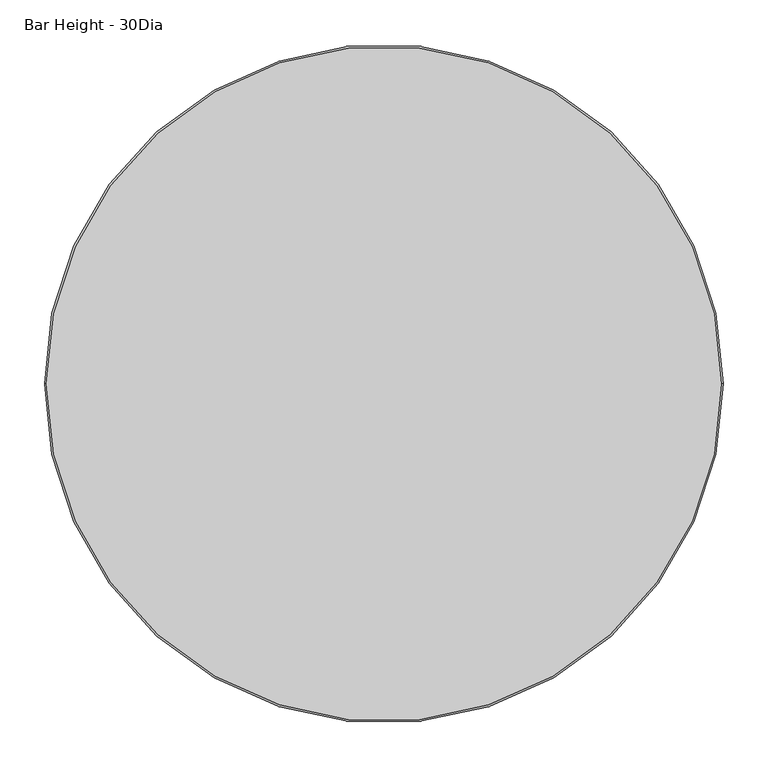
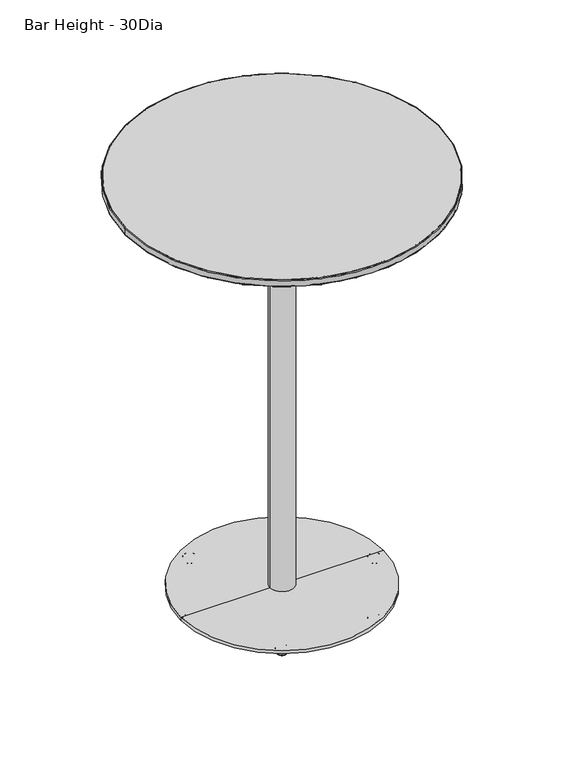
"""IFC4 building model written with IfcOpenShell, lengths in millimetres: furniture geometry, Coalesse_AM_Table_Occasional_Montara650Table_CafeHeight_Round : Bar Height - 30Dia."""

from ifc_helpers import new_model, si_unit, point, frame, origin, origin_with_axes, origin_2d, place, context, project, spatial, polyline, circle_curve, ellipse_curve, trimmed, segment, composite_curve, outline, extrude, source, transform, mapped, element, save
from ifc_brep_helpers import plane_surface, cylinder_surface, revolved_surface, advanced_brep


def bar_height_30dia_bfdacb72(model_context):
    return source(origin(), model_context, "Body", "SolidModel", [
        advanced_brep(
        [(-112.4946772, 194.8464965, 0.0), (-117.6867095, 203.8393602, 0.0), (-107.302645, 185.8536329, 0.0), (-118.0731448, 204.5086859, 0.5718943), (-106.9162096, 185.1843072, 0.5718943), (-119.6988534, 207.3244957, 11.2068005), (-105.290501, 182.3684973, 11.2068005), (-119.4053894, 206.8162011, 11.9999882), (-105.5839651, 182.8767919, 11.9999882), (-112.4946772, 194.8464965, 11.9999882)],
        [
            (0, 1),
            (1, 2, circle_curve(frame((-112.4946772, 194.8464965, 0.0), z_axis=(0.0, 0.0, -1.0), x_axis=(-0.5000000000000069, 0.8660254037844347, 0.0)), 10.3840645)),
            (2, 0),
            (2, 1, circle_curve(frame((-112.4946772, 194.8464965, 0.0), z_axis=(0.0, 0.0, -1.0), x_axis=(-0.5000000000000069, 0.8660254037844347, 0.0)), 10.3840645)),
            (1, 3, circle_curve(frame((-117.6867095, 203.8393602, 0.8081846), z_axis=(0.8660254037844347, 0.5000000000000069, 0.0), x_axis=(-0.5000000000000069, 0.8660254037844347, 0.0)), 0.8081846)),
            (3, 4, circle_curve(frame((-112.4946772, 194.8464965, 0.5718943), z_axis=(0.0, 0.0, -1.0), x_axis=(-0.5000000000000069, 0.8660254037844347, 0.0)), 11.1569353)),
            (4, 2, circle_curve(frame((-107.302645, 185.8536329, 0.8081846), z_axis=(0.866025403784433, 0.5000000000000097, 0.0), x_axis=(0.5000000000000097, -0.866025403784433, 0.0)), 0.8081846)),
            (4, 3, circle_curve(frame((-112.4946772, 194.8464965, 0.5718943), z_axis=(0.0, 0.0, -1.0), x_axis=(-0.5000000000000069, 0.8660254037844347, 0.0)), 11.1569353)),
            (3, 5),
            (5, 6, circle_curve(frame((-112.4946772, 194.8464965, 11.2068005), z_axis=(0.0, 0.0, -1.0), x_axis=(-0.5000000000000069, 0.8660254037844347, 0.0)), 14.4083524)),
            (6, 4),
            (6, 5, circle_curve(frame((-112.4946772, 194.8464965, 11.2068005), z_axis=(0.0, 0.0, -1.0), x_axis=(-0.5000000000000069, 0.8660254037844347, 0.0)), 14.4083524)),
            (5, 7, circle_curve(frame((-119.4053894, 206.8162011, 11.3862424), z_axis=(0.8660254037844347, 0.5000000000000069, 0.0), x_axis=(-0.5000000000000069, 0.8660254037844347, 0.0)), 0.6137458)),
            (7, 8, circle_curve(frame((-112.4946772, 194.8464965, 11.9999882), z_axis=(0.0, 0.0, -1.0), x_axis=(-0.5000000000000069, 0.8660254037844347, 0.0)), 13.8214243)),
            (8, 6, circle_curve(frame((-105.5839651, 182.8767919, 11.3862424), z_axis=(0.866025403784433, 0.5000000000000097, 0.0), x_axis=(0.5000000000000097, -0.866025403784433, 0.0)), 0.6137458)),
            (8, 7, circle_curve(frame((-112.4946772, 194.8464965, 11.9999882), z_axis=(0.0, 0.0, -1.0), x_axis=(-0.5000000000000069, 0.8660254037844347, 0.0)), 13.8214243)),
            (7, 9),
            (9, 8),
        ],
        [
            plane_surface(frame((-112.4946772, 194.8464965, 0.0), z_axis=(0.0, 0.0, -1.0), x_axis=(-0.5000000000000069, 0.8660254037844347, 0.0))),
            revolved_surface(trimmed(ellipse_curve(frame((-117.6867095, 203.8393602, 0.8081846), z_axis=(-0.8660254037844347, -0.5000000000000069, 0.0), x_axis=(-0.5000000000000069, 0.8660254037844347, 0.0)), 0.8081846, 0.8081846), [point((-118.0731448, 204.5086859, 0.5718943))], [point((-117.6867095, 203.8393602, 0.0))], True, "CARTESIAN"), (-112.4946772, 194.8464965, 12.2086845), (0.0, 0.0, -1.0)),
            revolved_surface(polyline([(-119.6988534, 207.3244957, 11.2068005), (-118.0731448, 204.5086859, 0.5718943)]), (-112.4946772, 194.8464965, 12.2086845), (0.0, 0.0, -1.0)),
            revolved_surface(trimmed(ellipse_curve(frame((-119.4053894, 206.8162011, 11.3862424), z_axis=(-0.8660254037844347, -0.5000000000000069, 0.0), x_axis=(-0.5000000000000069, 0.8660254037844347, 0.0)), 0.6137458, 0.6137458), [point((-119.4053894, 206.8162011, 11.9999882))], [point((-119.6988534, 207.3244957, 11.2068005))], True, "CARTESIAN"), (-112.4946772, 194.8464965, 12.2086845), (0.0, 0.0, -1.0)),
            plane_surface(frame((-112.4946772, 194.8464965, 11.9999882), z_axis=(0.0, 0.0, 1.0), x_axis=(-0.5000000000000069, 0.8660254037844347, 0.0))),
        ],
        [
            (0, [[1, 2, 3]]),
            (0, [[-3, 4, -1]]),
            (1, [[-2, 5, 6, 7]]),
            (1, [[-4, -7, 8, -5]]),
            (2, [[-6, 9, 10, 11]]),
            (2, [[-8, -11, 12, -9]]),
            (3, [[-10, 13, 14, 15]]),
            (3, [[-12, -15, 16, -13]]),
            (4, [[-14, 17, 18]]),
            (4, [[-16, -18, -17]]),
        ],
    ),
        advanced_brep(
        [(107.302645, -185.8536329, 0.0), (117.6867095, -203.8393602, 0.0), (112.4946772, -194.8464965, 0.0), (106.9162096, -185.1843072, 0.5718943), (118.0731448, -204.5086859, 0.5718943), (105.290501, -182.3684973, 11.2068005), (119.6988534, -207.3244957, 11.2068005), (105.5839651, -182.8767919, 11.9999882), (119.4053894, -206.8162011, 11.9999882), (112.4946772, -194.8464965, 11.9999882)],
        [
            (0, 1, circle_curve(frame((112.4946772, -194.8464965, 0.0), z_axis=(0.0, 0.0, -1.0), x_axis=(0.5000000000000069, -0.8660254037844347, 0.0)), 10.3840645)),
            (1, 2),
            (2, 0),
            (1, 0, circle_curve(frame((112.4946772, -194.8464965, 0.0), z_axis=(0.0, 0.0, -1.0), x_axis=(0.5000000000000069, -0.8660254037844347, 0.0)), 10.3840645)),
            (3, 4, circle_curve(frame((112.4946772, -194.8464965, 0.5718943), z_axis=(0.0, 0.0, -1.0), x_axis=(0.5000000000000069, -0.8660254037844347, 0.0)), 11.1569353)),
            (4, 1, circle_curve(frame((117.6867095, -203.8393602, 0.8081846), z_axis=(0.8660254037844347, 0.5000000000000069, 0.0), x_axis=(0.5000000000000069, -0.8660254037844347, 0.0)), 0.8081846)),
            (0, 3, circle_curve(frame((107.302645, -185.8536329, 0.8081846), z_axis=(0.8660254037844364, 0.5000000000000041, 0.0), x_axis=(-0.5000000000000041, 0.8660254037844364, 0.0)), 0.8081846)),
            (4, 3, circle_curve(frame((112.4946772, -194.8464965, 0.5718943), z_axis=(0.0, 0.0, -1.0), x_axis=(0.5000000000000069, -0.8660254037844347, 0.0)), 11.1569353)),
            (5, 6, circle_curve(frame((112.4946772, -194.8464965, 11.2068005), z_axis=(0.0, 0.0, -1.0), x_axis=(0.5000000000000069, -0.8660254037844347, 0.0)), 14.4083524)),
            (6, 4),
            (3, 5),
            (6, 5, circle_curve(frame((112.4946772, -194.8464965, 11.2068005), z_axis=(0.0, 0.0, -1.0), x_axis=(0.5000000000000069, -0.8660254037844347, 0.0)), 14.4083524)),
            (7, 8, circle_curve(frame((112.4946772, -194.8464965, 11.9999882), z_axis=(0.0, 0.0, -1.0), x_axis=(0.5000000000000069, -0.8660254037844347, 0.0)), 13.8214243)),
            (8, 6, circle_curve(frame((119.4053894, -206.8162011, 11.3862424), z_axis=(0.8660254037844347, 0.5000000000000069, 0.0), x_axis=(0.5000000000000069, -0.8660254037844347, 0.0)), 0.6137458)),
            (5, 7, circle_curve(frame((105.5839651, -182.8767919, 11.3862424), z_axis=(0.8660254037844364, 0.5000000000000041, 0.0), x_axis=(-0.5000000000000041, 0.8660254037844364, 0.0)), 0.6137458)),
            (8, 7, circle_curve(frame((112.4946772, -194.8464965, 11.9999882), z_axis=(0.0, 0.0, -1.0), x_axis=(0.5000000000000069, -0.8660254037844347, 0.0)), 13.8214243)),
            (9, 8),
            (7, 9),
        ],
        [
            plane_surface(frame((112.4946772, -194.8464965, 0.0), z_axis=(0.0, 0.0, -1.0), x_axis=(0.5000000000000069, -0.8660254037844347, 0.0))),
            revolved_surface(trimmed(ellipse_curve(frame((117.6867095, -203.8393602, 0.8081846), z_axis=(-0.8660254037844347, -0.5000000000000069, 0.0), x_axis=(0.5000000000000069, -0.8660254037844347, 0.0)), 0.8081846, 0.8081846), [point((117.6867095, -203.8393602, 0.0))], [point((118.0731448, -204.5086859, 0.5718943))], True, "CARTESIAN"), (112.4946772, -194.8464965, 12.2086845), (0.0, 0.0, 1.0)),
            revolved_surface(polyline([(118.0731448, -204.5086859, 0.5718943), (119.6988534, -207.3244957, 11.2068005)]), (112.4946772, -194.8464965, 12.2086845), (0.0, 0.0, 1.0)),
            revolved_surface(trimmed(ellipse_curve(frame((119.4053894, -206.8162011, 11.3862424), z_axis=(-0.8660254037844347, -0.5000000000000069, 0.0), x_axis=(0.5000000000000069, -0.8660254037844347, 0.0)), 0.6137458, 0.6137458), [point((119.6988534, -207.3244957, 11.2068005))], [point((119.4053894, -206.8162011, 11.9999882))], True, "CARTESIAN"), (112.4946772, -194.8464965, 12.2086845), (0.0, 0.0, 1.0)),
            plane_surface(frame((112.4946772, -194.8464965, 11.9999882), z_axis=(0.0, 0.0, 1.0), x_axis=(0.5000000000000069, -0.8660254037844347, 0.0))),
        ],
        [
            (0, [[1, 2, 3]]),
            (0, [[4, -3, -2]]),
            (1, [[5, 6, -1, 7]]),
            (1, [[8, -7, -4, -6]]),
            (2, [[9, 10, -5, 11]]),
            (2, [[12, -11, -8, -10]]),
            (3, [[13, 14, -9, 15]]),
            (3, [[16, -15, -12, -14]]),
            (4, [[17, -13, 18]]),
            (4, [[-18, -16, -17]]),
        ],
    ),
        advanced_brep(
        [(104.863739, 174.0655874, 0.0), (115.2478035, 192.0513148, 0.0), (110.0557713, 183.0584511, 0.0), (104.4773036, 173.3962617, 0.5718943), (115.6342389, 192.7206405, 0.5718943), (102.8515951, 170.5804519, 11.2068005), (117.2599475, 195.5364503, 11.2068005), (103.1450591, 171.0887465, 11.9999882), (116.9664834, 195.0281557, 11.9999882), (110.0557713, 183.0584511, 11.9999882)],
        [
            (0, 1, circle_curve(frame((110.0557713, 183.0584511, 0.0), z_axis=(0.0, 0.0, -1.0), x_axis=(0.5000000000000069, 0.8660254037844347, 0.0)), 10.3840645)),
            (1, 2),
            (2, 0),
            (1, 0, circle_curve(frame((110.0557713, 183.0584511, 0.0), z_axis=(0.0, 0.0, -1.0), x_axis=(0.5000000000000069, 0.8660254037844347, 0.0)), 10.3840645)),
            (3, 4, circle_curve(frame((110.0557713, 183.0584511, 0.5718943), z_axis=(0.0, 0.0, -1.0), x_axis=(0.5000000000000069, 0.8660254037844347, 0.0)), 11.1569353)),
            (4, 1, circle_curve(frame((115.2478035, 192.0513148, 0.8081846), z_axis=(-0.8660254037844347, 0.5000000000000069, 0.0), x_axis=(0.5000000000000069, 0.8660254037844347, 0.0)), 0.8081846)),
            (0, 3, circle_curve(frame((104.863739, 174.0655874, 0.8081846), z_axis=(-0.866025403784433, 0.5000000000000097, 0.0), x_axis=(-0.5000000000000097, -0.866025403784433, 0.0)), 0.8081846)),
            (4, 3, circle_curve(frame((110.0557713, 183.0584511, 0.5718943), z_axis=(0.0, 0.0, -1.0), x_axis=(0.5000000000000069, 0.8660254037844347, 0.0)), 11.1569353)),
            (5, 6, circle_curve(frame((110.0557713, 183.0584511, 11.2068005), z_axis=(0.0, 0.0, -1.0), x_axis=(0.5000000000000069, 0.8660254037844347, 0.0)), 14.4083524)),
            (6, 4),
            (3, 5),
            (6, 5, circle_curve(frame((110.0557713, 183.0584511, 11.2068005), z_axis=(0.0, 0.0, -1.0), x_axis=(0.5000000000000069, 0.8660254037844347, 0.0)), 14.4083524)),
            (7, 8, circle_curve(frame((110.0557713, 183.0584511, 11.9999882), z_axis=(0.0, 0.0, -1.0), x_axis=(0.5000000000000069, 0.8660254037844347, 0.0)), 13.8214243)),
            (8, 6, circle_curve(frame((116.9664834, 195.0281557, 11.3862424), z_axis=(-0.8660254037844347, 0.5000000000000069, 0.0), x_axis=(0.5000000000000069, 0.8660254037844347, 0.0)), 0.6137458)),
            (5, 7, circle_curve(frame((103.1450591, 171.0887465, 11.3862424), z_axis=(-0.866025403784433, 0.5000000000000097, 0.0), x_axis=(-0.5000000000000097, -0.866025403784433, 0.0)), 0.6137458)),
            (8, 7, circle_curve(frame((110.0557713, 183.0584511, 11.9999882), z_axis=(0.0, 0.0, -1.0), x_axis=(0.5000000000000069, 0.8660254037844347, 0.0)), 13.8214243)),
            (9, 8),
            (7, 9),
        ],
        [
            plane_surface(frame((110.0557713, 183.0584511, 0.0), z_axis=(0.0, 0.0, -1.0), x_axis=(0.5000000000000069, 0.8660254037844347, 0.0))),
            revolved_surface(trimmed(ellipse_curve(frame((115.2478035, 192.0513148, 0.8081846), z_axis=(0.8660254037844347, -0.5000000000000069, 0.0), x_axis=(0.5000000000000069, 0.8660254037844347, 0.0)), 0.8081846, 0.8081846), [point((115.2478035, 192.0513148, 0.0))], [point((115.6342389, 192.7206405, 0.5718943))], True, "CARTESIAN"), (110.0557713, 183.0584511, 12.2086845), (0.0, 0.0, 1.0)),
            revolved_surface(polyline([(115.6342389, 192.7206405, 0.5718943), (117.2599475, 195.5364503, 11.2068005)]), (110.0557713, 183.0584511, 12.2086845), (0.0, 0.0, 1.0)),
            revolved_surface(trimmed(ellipse_curve(frame((116.9664834, 195.0281557, 11.3862424), z_axis=(0.8660254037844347, -0.5000000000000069, 0.0), x_axis=(0.5000000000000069, 0.8660254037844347, 0.0)), 0.6137458, 0.6137458), [point((117.2599475, 195.5364503, 11.2068005))], [point((116.9664834, 195.0281557, 11.9999882))], True, "CARTESIAN"), (110.0557713, 183.0584511, 12.2086845), (0.0, 0.0, 1.0)),
            plane_surface(frame((110.0557713, 183.0584511, 11.9999882), z_axis=(0.0, 0.0, 1.0), x_axis=(0.5000000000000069, 0.8660254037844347, 0.0))),
        ],
        [
            (0, [[1, 2, 3]]),
            (0, [[4, -3, -2]]),
            (1, [[5, 6, -1, 7]]),
            (1, [[8, -7, -4, -6]]),
            (2, [[9, 10, -5, 11]]),
            (2, [[12, -11, -8, -10]]),
            (3, [[13, 14, -9, 15]]),
            (3, [[16, -15, -12, -14]]),
            (4, [[17, -13, 18]]),
            (4, [[-18, -16, -17]]),
        ],
    ),
        advanced_brep(
        [(-112.4946772, -194.8464965, 0.0), (-117.6867095, -203.8393602, 0.0), (-107.302645, -185.8536329, 0.0), (-118.0731448, -204.5086859, 0.5718943), (-106.9162096, -185.1843072, 0.5718943), (-119.6988534, -207.3244957, 11.2068005), (-105.290501, -182.3684973, 11.2068005), (-119.4053894, -206.8162011, 11.9999882), (-105.5839651, -182.8767919, 11.9999882), (-112.4946772, -194.8464965, 11.9999882)],
        [
            (0, 1),
            (1, 2, circle_curve(frame((-112.4946772, -194.8464965, 0.0), z_axis=(0.0, 0.0, -1.0), x_axis=(-0.5000000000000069, -0.8660254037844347, 0.0)), 10.3840645)),
            (2, 0),
            (2, 1, circle_curve(frame((-112.4946772, -194.8464965, 0.0), z_axis=(0.0, 0.0, -1.0), x_axis=(-0.5000000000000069, -0.8660254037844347, 0.0)), 10.3840645)),
            (1, 3, circle_curve(frame((-117.6867095, -203.8393602, 0.8081846), z_axis=(-0.8660254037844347, 0.5000000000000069, 0.0), x_axis=(-0.5000000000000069, -0.8660254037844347, 0.0)), 0.8081846)),
            (3, 4, circle_curve(frame((-112.4946772, -194.8464965, 0.5718943), z_axis=(0.0, 0.0, -1.0), x_axis=(-0.5000000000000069, -0.8660254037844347, 0.0)), 11.1569353)),
            (4, 2, circle_curve(frame((-107.302645, -185.8536329, 0.8081846), z_axis=(-0.8660254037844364, 0.5000000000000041, 0.0), x_axis=(0.5000000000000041, 0.8660254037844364, 0.0)), 0.8081846)),
            (4, 3, circle_curve(frame((-112.4946772, -194.8464965, 0.5718943), z_axis=(0.0, 0.0, -1.0), x_axis=(-0.5000000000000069, -0.8660254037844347, 0.0)), 11.1569353)),
            (3, 5),
            (5, 6, circle_curve(frame((-112.4946772, -194.8464965, 11.2068005), z_axis=(0.0, 0.0, -1.0), x_axis=(-0.5000000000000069, -0.8660254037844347, 0.0)), 14.4083524)),
            (6, 4),
            (6, 5, circle_curve(frame((-112.4946772, -194.8464965, 11.2068005), z_axis=(0.0, 0.0, -1.0), x_axis=(-0.5000000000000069, -0.8660254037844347, 0.0)), 14.4083524)),
            (5, 7, circle_curve(frame((-119.4053894, -206.8162011, 11.3862424), z_axis=(-0.8660254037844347, 0.5000000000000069, 0.0), x_axis=(-0.5000000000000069, -0.8660254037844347, 0.0)), 0.6137458)),
            (7, 8, circle_curve(frame((-112.4946772, -194.8464965, 11.9999882), z_axis=(0.0, 0.0, -1.0), x_axis=(-0.5000000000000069, -0.8660254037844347, 0.0)), 13.8214243)),
            (8, 6, circle_curve(frame((-105.5839651, -182.8767919, 11.3862424), z_axis=(-0.8660254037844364, 0.5000000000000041, 0.0), x_axis=(0.5000000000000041, 0.8660254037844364, 0.0)), 0.6137458)),
            (8, 7, circle_curve(frame((-112.4946772, -194.8464965, 11.9999882), z_axis=(0.0, 0.0, -1.0), x_axis=(-0.5000000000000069, -0.8660254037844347, 0.0)), 13.8214243)),
            (7, 9),
            (9, 8),
        ],
        [
            plane_surface(frame((-112.4946772, -194.8464965, 0.0), z_axis=(0.0, 0.0, -1.0), x_axis=(-0.5000000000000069, -0.8660254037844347, 0.0))),
            revolved_surface(trimmed(ellipse_curve(frame((-117.6867095, -203.8393602, 0.8081846), z_axis=(0.8660254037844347, -0.5000000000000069, 0.0), x_axis=(-0.5000000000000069, -0.8660254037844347, 0.0)), 0.8081846, 0.8081846), [point((-118.0731448, -204.5086859, 0.5718943))], [point((-117.6867095, -203.8393602, 0.0))], True, "CARTESIAN"), (-112.4946772, -194.8464965, 12.2086845), (0.0, 0.0, -1.0)),
            revolved_surface(polyline([(-119.6988534, -207.3244957, 11.2068005), (-118.0731448, -204.5086859, 0.5718943)]), (-112.4946772, -194.8464965, 12.2086845), (0.0, 0.0, -1.0)),
            revolved_surface(trimmed(ellipse_curve(frame((-119.4053894, -206.8162011, 11.3862424), z_axis=(0.8660254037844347, -0.5000000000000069, 0.0), x_axis=(-0.5000000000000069, -0.8660254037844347, 0.0)), 0.6137458, 0.6137458), [point((-119.4053894, -206.8162011, 11.9999882))], [point((-119.6988534, -207.3244957, 11.2068005))], True, "CARTESIAN"), (-112.4946772, -194.8464965, 12.2086845), (0.0, 0.0, -1.0)),
            plane_surface(frame((-112.4946772, -194.8464965, 11.9999882), z_axis=(0.0, 0.0, 1.0), x_axis=(-0.5000000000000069, -0.8660254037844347, 0.0))),
        ],
        [
            (0, [[1, 2, 3]]),
            (0, [[-3, 4, -1]]),
            (1, [[-2, 5, 6, 7]]),
            (1, [[-4, -7, 8, -5]]),
            (2, [[-6, 9, 10, 11]]),
            (2, [[-8, -11, 12, -9]]),
            (3, [[-10, 13, 14, 15]]),
            (3, [[-12, -15, 16, -13]]),
            (4, [[-14, 17, 18]]),
            (4, [[-16, -18, -17]]),
        ],
    ),
        advanced_brep(
        [(214.6052899, 0.0, 0.0), (235.3734189, 0.0, 0.0), (224.9893544, 0.0, 0.0), (213.8324192, 0.0, 0.5718943), (236.1462897, 0.0, 0.5718943), (210.5810021, 0.0, 11.2068005), (239.3977068, 0.0, 11.2068005), (211.1679301, 0.0, 11.9999882), (238.8107788, 0.0, 11.9999882), (224.9893544, 0.0, 11.9999882)],
        [
            (0, 1, circle_curve(frame((224.9893544, 0.0, 0.0), z_axis=(0.0, 0.0, -1.0), x_axis=(1.0, 0.0, 0.0)), 10.3840645)),
            (1, 2),
            (2, 0),
            (1, 0, circle_curve(frame((224.9893544, 0.0, 0.0), z_axis=(0.0, 0.0, -1.0), x_axis=(1.0, 0.0, 0.0)), 10.3840645)),
            (3, 4, circle_curve(frame((224.9893544, 0.0, 0.5718943), z_axis=(0.0, 0.0, -1.0), x_axis=(1.0, 0.0, 0.0)), 11.1569353)),
            (4, 1, circle_curve(frame((235.3734189, 0.0, 0.8081846), z_axis=(0.0, 1.0, 0.0), x_axis=(1.0, 0.0, 0.0)), 0.8081846)),
            (0, 3, circle_curve(frame((214.6052899, 0.0, 0.8081846), z_axis=(0.0, 1.0, 0.0), x_axis=(-1.0, 0.0, 0.0)), 0.8081846)),
            (4, 3, circle_curve(frame((224.9893544, 0.0, 0.5718943), z_axis=(0.0, 0.0, -1.0), x_axis=(1.0, 0.0, 0.0)), 11.1569353)),
            (5, 6, circle_curve(frame((224.9893544, 0.0, 11.2068005), z_axis=(0.0, 0.0, -1.0), x_axis=(1.0, 0.0, 0.0)), 14.4083524)),
            (6, 4),
            (3, 5),
            (6, 5, circle_curve(frame((224.9893544, 0.0, 11.2068005), z_axis=(0.0, 0.0, -1.0), x_axis=(1.0, 0.0, 0.0)), 14.4083524)),
            (7, 8, circle_curve(frame((224.9893544, 0.0, 11.9999882), z_axis=(0.0, 0.0, -1.0), x_axis=(1.0, 0.0, 0.0)), 13.8214243)),
            (8, 6, circle_curve(frame((238.8107788, 0.0, 11.3862424), z_axis=(0.0, 1.0, 0.0), x_axis=(1.0, 0.0, 0.0)), 0.6137458)),
            (5, 7, circle_curve(frame((211.1679301, 0.0, 11.3862424), z_axis=(0.0, 1.0, 0.0), x_axis=(-1.0, 0.0, 0.0)), 0.6137458)),
            (8, 7, circle_curve(frame((224.9893544, 0.0, 11.9999882), z_axis=(0.0, 0.0, -1.0), x_axis=(1.0, 0.0, 0.0)), 13.8214243)),
            (9, 8),
            (7, 9),
        ],
        [
            plane_surface(frame((224.9893544, 0.0, 0.0), z_axis=(0.0, 0.0, -1.0), x_axis=(1.0, 0.0, 0.0))),
            revolved_surface(trimmed(ellipse_curve(frame((235.3734189, 0.0, 0.8081846), z_axis=(0.0, -1.0, 0.0), x_axis=(1.0, 0.0, 0.0)), 0.8081846, 0.8081846), [point((235.3734189, 0.0, 0.0))], [point((236.1462897, 0.0, 0.5718943))], True, "CARTESIAN"), (224.9893544, 0.0, 12.2086845), (0.0, 0.0, 1.0)),
            revolved_surface(polyline([(236.1462897, 0.0, 0.5718943), (239.3977068, 0.0, 11.2068005)]), (224.9893544, 0.0, 12.2086845), (0.0, 0.0, 1.0)),
            revolved_surface(trimmed(ellipse_curve(frame((238.8107788, 0.0, 11.3862424), z_axis=(0.0, -1.0, 0.0), x_axis=(1.0, 0.0, 0.0)), 0.6137458, 0.6137458), [point((239.3977068, 0.0, 11.2068005))], [point((238.8107788, 0.0, 11.9999882))], True, "CARTESIAN"), (224.9893544, 0.0, 12.2086845), (0.0, 0.0, 1.0)),
            plane_surface(frame((224.9893544, 0.0, 11.9999882), z_axis=(0.0, 0.0, 1.0), x_axis=(1.0, 0.0, 0.0))),
        ],
        [
            (0, [[1, 2, 3]]),
            (0, [[4, -3, -2]]),
            (1, [[5, 6, -1, 7]]),
            (1, [[8, -7, -4, -6]]),
            (2, [[9, 10, -5, 11]]),
            (2, [[12, -11, -8, -10]]),
            (3, [[13, 14, -9, 15]]),
            (3, [[16, -15, -12, -14]]),
            (4, [[17, -13, 18]]),
            (4, [[-18, -16, -17]]),
        ],
    ),
        advanced_brep(
        [(-334.264, 0.0, 1036.830027), (334.264, 0.0, 1036.830027), (-378.968, 0.0, 1049.095891), (378.968, 0.0, 1049.095891)],
        [
            (0, 1, circle_curve(frame((0.0, 0.0, 1036.830027), z_axis=(0.0, 0.0, -1.0), x_axis=(-1.0, 0.0, 0.0)), 334.264)),
            (1, 0, circle_curve(frame((0.0, 0.0, 1036.830027), z_axis=(0.0, 0.0, -1.0), x_axis=(1.0, 0.0, 0.0)), 334.264)),
            (2, 3, circle_curve(frame((0.0, 0.0, 1049.095891), z_axis=(0.0, 0.0, 1.0), x_axis=(1.0, 0.0, 0.0)), 378.968)),
            (3, 2, circle_curve(frame((0.0, 0.0, 1049.095891), z_axis=(0.0, 0.0, 1.0), x_axis=(-1.0, 0.0, 0.0)), 378.968)),
            (2, 0),
            (1, 3),
        ],
        [
            plane_surface(frame((0.0, 0.0, 1036.830027), z_axis=(0.0, 0.0, -1.0), x_axis=(0.0, -1.0, 0.0))),
            plane_surface(frame((0.0, 0.0, 1049.095891), z_axis=(0.0, 0.0, 1.0), x_axis=(0.0, -1.0, 0.0))),
            revolved_surface(polyline([(334.2639998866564, 0.0, 1036.830027), (378.968, 0.0, 1049.095891)]), (0.0, 0.0, 945.1148169), (0.0, 0.0, 1.0)),
            revolved_surface(polyline([(-334.2639998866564, 0.0, 1036.830027), (-378.968, 0.0, 1049.095891)]), (0.0, 0.0, 945.1148169), (0.0, 0.0, 1.0)),
        ],
        [
            (0, [[1, 2]]),
            (1, [[3, 4]]),
            (2, [[-3, 5, -2, 6]]),
            (3, [[-4, -6, -1, -5]]),
        ],
    ),
        extrude(outline(composite_curve([segment(trimmed(circle_curve(origin_2d(), 378.968), [point((-378.968, 0.0))], [point((378.968, 0.0))], False, "CARTESIAN"), True, "CONTINUOUS"), segment(trimmed(circle_curve(origin_2d(), 378.968), [point((378.968, 0.0))], [point((-378.968, 0.0))], False, "CARTESIAN"), True, "CONTINUOUS")], self_intersect=False)), frame((0.0, 0.0, 1049.095891), z_axis=(0.0, 0.0, 1.0), x_axis=(1.0, 0.0, 0.0)), (0.0, 0.0, 1.0), 17.704109),
        advanced_brep(
        [(-224.9893544, 0.0, 0.0), (-235.3734189, 0.0, 0.0), (-214.6052899, 0.0, 0.0), (-236.1462897, 0.0, 0.5718943), (-213.8324192, 0.0, 0.5718943), (-239.3977068, 0.0, 11.2068005), (-210.5810021, 0.0, 11.2068005), (-238.8107788, 0.0, 11.9999882), (-211.1679301, 0.0, 11.9999882), (-224.9893544, 0.0, 11.9999882)],
        [
            (0, 1),
            (1, 2, circle_curve(frame((-224.9893544, 0.0, 0.0), z_axis=(0.0, 0.0, -1.0), x_axis=(-1.0, 0.0, 0.0)), 10.3840645)),
            (2, 0),
            (2, 1, circle_curve(frame((-224.9893544, 0.0, 0.0), z_axis=(0.0, 0.0, -1.0), x_axis=(-1.0, 0.0, 0.0)), 10.3840645)),
            (1, 3, circle_curve(frame((-235.3734189, 0.0, 0.8081846), z_axis=(0.0, 1.0, 0.0), x_axis=(-1.0, 0.0, 0.0)), 0.8081846)),
            (3, 4, circle_curve(frame((-224.9893544, 0.0, 0.5718943), z_axis=(0.0, 0.0, -1.0), x_axis=(-1.0, 0.0, 0.0)), 11.1569353)),
            (4, 2, circle_curve(frame((-214.6052899, 0.0, 0.8081846), z_axis=(0.0, 1.0, 0.0), x_axis=(1.0, 0.0, 0.0)), 0.8081846)),
            (4, 3, circle_curve(frame((-224.9893544, 0.0, 0.5718943), z_axis=(0.0, 0.0, -1.0), x_axis=(-1.0, 0.0, 0.0)), 11.1569353)),
            (3, 5),
            (5, 6, circle_curve(frame((-224.9893544, 0.0, 11.2068005), z_axis=(0.0, 0.0, -1.0), x_axis=(-1.0, 0.0, 0.0)), 14.4083524)),
            (6, 4),
            (6, 5, circle_curve(frame((-224.9893544, 0.0, 11.2068005), z_axis=(0.0, 0.0, -1.0), x_axis=(-1.0, 0.0, 0.0)), 14.4083524)),
            (5, 7, circle_curve(frame((-238.8107788, 0.0, 11.3862424), z_axis=(0.0, 1.0, 0.0), x_axis=(-1.0, 0.0, 0.0)), 0.6137458)),
            (7, 8, circle_curve(frame((-224.9893544, 0.0, 11.9999882), z_axis=(0.0, 0.0, -1.0), x_axis=(-1.0, 0.0, 0.0)), 13.8214243)),
            (8, 6, circle_curve(frame((-211.1679301, 0.0, 11.3862424), z_axis=(0.0, 1.0, 0.0), x_axis=(1.0, 0.0, 0.0)), 0.6137458)),
            (8, 7, circle_curve(frame((-224.9893544, 0.0, 11.9999882), z_axis=(0.0, 0.0, -1.0), x_axis=(-1.0, 0.0, 0.0)), 13.8214243)),
            (7, 9),
            (9, 8),
        ],
        [
            plane_surface(frame((-224.9893544, 0.0, 0.0), z_axis=(0.0, 0.0, -1.0), x_axis=(-1.0, 0.0, 0.0))),
            revolved_surface(trimmed(ellipse_curve(frame((-235.3734189, 0.0, 0.8081846), z_axis=(0.0, -1.0, 0.0), x_axis=(-1.0, 0.0, 0.0)), 0.8081846, 0.8081846), [point((-236.1462897, 0.0, 0.5718943))], [point((-235.3734189, 0.0, 0.0))], True, "CARTESIAN"), (-224.9893544, 0.0, 12.2086845), (0.0, 0.0, -1.0)),
            revolved_surface(polyline([(-239.3977068, 0.0, 11.2068005), (-236.1462897, 0.0, 0.5718943)]), (-224.9893544, 0.0, 12.2086845), (0.0, 0.0, -1.0)),
            revolved_surface(trimmed(ellipse_curve(frame((-238.8107788, 0.0, 11.3862424), z_axis=(0.0, -1.0, 0.0), x_axis=(-1.0, 0.0, 0.0)), 0.6137458, 0.6137458), [point((-238.8107788, 0.0, 11.9999882))], [point((-239.3977068, 0.0, 11.2068005))], True, "CARTESIAN"), (-224.9893544, 0.0, 12.2086845), (0.0, 0.0, -1.0)),
            plane_surface(frame((-224.9893544, 0.0, 11.9999882), z_axis=(0.0, 0.0, 1.0), x_axis=(-1.0, 0.0, 0.0))),
        ],
        [
            (0, [[1, 2, 3]]),
            (0, [[-3, 4, -1]]),
            (1, [[-2, 5, 6, 7]]),
            (1, [[-4, -7, 8, -5]]),
            (2, [[-6, 9, 10, 11]]),
            (2, [[-8, -11, 12, -9]]),
            (3, [[-10, 13, 14, 15]]),
            (3, [[-12, -15, 16, -13]]),
            (4, [[-14, 17, 18]]),
            (4, [[-16, -18, -17]]),
        ],
    ),
        advanced_brep(
        [(381.0438665, 0.0, 1051.0278467), (-381.0438665, 0.0, 1051.0278467), (-378.968, 0.0, 1049.095891), (378.968, 0.0, 1049.095891), (381.0438665, 0.0, 1064.7999283), (-381.0438665, 0.0, 1064.7999283), (378.968, 0.0, 1066.8), (-378.968, 0.0, 1066.8)],
        [
            (0, 1, circle_curve(frame((0.0, 0.0, 1051.0278467), z_axis=(0.0, 0.0, -1.0), x_axis=(-1.0, 0.0, 0.0)), 381.0438665)),
            (1, 2, circle_curve(frame((-379.1069224, 0.0, 1051.0278467), z_axis=(0.0, -1.0, 0.0), x_axis=(1.0, 0.0, 0.0)), 1.9369441)),
            (2, 3, circle_curve(frame((0.0, 0.0, 1049.095891), z_axis=(0.0, 0.0, 1.0), x_axis=(-1.0, 0.0, 0.0)), 378.968)),
            (3, 0, circle_curve(frame((379.1069224, 0.0, 1051.0278467), z_axis=(0.0, -1.0, 0.0), x_axis=(-1.0, 0.0, 0.0)), 1.9369441)),
            (4, 5, circle_curve(frame((0.0, 0.0, 1064.7999283), z_axis=(0.0, 0.0, -1.0), x_axis=(-1.0, 0.0, 0.0)), 381.0438665)),
            (5, 1),
            (0, 4),
            (6, 7, circle_curve(frame((0.0, 0.0, 1066.8), z_axis=(0.0, 0.0, -1.0), x_axis=(-1.0, 0.0, 0.0)), 378.968)),
            (7, 5, circle_curve(frame((-379.0424111, 0.0, 1064.7999283), z_axis=(0.0, -1.0, 0.0), x_axis=(1.0, 0.0, 0.0)), 2.0014554)),
            (4, 6, circle_curve(frame((379.0424111, 0.0, 1064.7999283), z_axis=(0.0, -1.0, 0.0), x_axis=(-1.0, 0.0, 0.0)), 2.0014554)),
            (2, 7),
            (6, 3),
            (1, 0, circle_curve(frame((0.0, 0.0, 1051.0278467), z_axis=(0.0, 0.0, -1.0), x_axis=(1.0, 0.0, 0.0)), 381.0438665)),
            (3, 2, circle_curve(frame((0.0, 0.0, 1049.095891), z_axis=(0.0, 0.0, 1.0), x_axis=(1.0, 0.0, 0.0)), 378.968)),
            (5, 4, circle_curve(frame((0.0, 0.0, 1064.7999283), z_axis=(0.0, 0.0, -1.0), x_axis=(1.0, 0.0, 0.0)), 381.0438665)),
            (7, 6, circle_curve(frame((0.0, 0.0, 1066.8), z_axis=(0.0, 0.0, -1.0), x_axis=(1.0, 0.0, 0.0)), 378.968)),
        ],
        [
            revolved_surface(trimmed(ellipse_curve(frame((-379.1069224, 0.0, 1051.0278467), z_axis=(0.0, 1.0, 0.0), x_axis=(1.0, 0.0, 0.0)), 1.9369441, 1.9369441), [point((-378.968, 0.0, 1049.095891))], [point((-381.0438665, 0.0, 1051.0278467))], True, "CARTESIAN"), (0.0, 0.0, 0.0), (0.0, 0.0, 1.0)),
            cylinder_surface(frame((0.0, 0.0, 0.0), z_axis=(0.0, 0.0, 1.0), x_axis=(-1.0, 0.0, 0.0)), 381.0438665),
            revolved_surface(trimmed(ellipse_curve(frame((-379.0424111, 0.0, 1064.7999283), z_axis=(0.0, 1.0, 0.0), x_axis=(1.0, 0.0, 0.0)), 2.0014554, 2.0014554), [point((-381.0438665, 0.0, 1064.7999283))], [point((-378.968, 0.0, 1066.8))], True, "CARTESIAN"), (0.0, 0.0, 0.0), (0.0, 0.0, 1.0)),
            revolved_surface(polyline([(-378.968, 0.0, 1066.8), (-378.968, 0.0, 1049.095891)]), (0.0, 0.0, 0.0), (0.0, 0.0, 1.0)),
            revolved_surface(trimmed(ellipse_curve(frame((379.1069224, 0.0, 1051.0278467), z_axis=(0.0, -1.0, 0.0), x_axis=(-1.0, 0.0, 0.0)), 1.9369441, 1.9369441), [point((378.968, 0.0, 1049.095891))], [point((381.0438665, 0.0, 1051.0278467))], True, "CARTESIAN"), (0.0, 0.0, 0.0), (0.0, 0.0, 1.0)),
            cylinder_surface(origin_with_axes(), 381.0438665),
            revolved_surface(trimmed(ellipse_curve(frame((379.0424111, 0.0, 1064.7999283), z_axis=(0.0, -1.0, 0.0), x_axis=(-1.0, 0.0, 0.0)), 2.0014554, 2.0014554), [point((381.0438665, 0.0, 1064.7999283))], [point((378.968, 0.0, 1066.8))], True, "CARTESIAN"), (0.0, 0.0, 0.0), (0.0, 0.0, 1.0)),
            revolved_surface(polyline([(378.968, 0.0, 1066.8), (378.968, 0.0, 1049.095891)]), (0.0, 0.0, 0.0), (0.0, 0.0, 1.0)),
        ],
        [
            (0, [[1, 2, 3, 4]]),
            (1, [[5, 6, -1, 7]]),
            (2, [[8, 9, -5, 10]]),
            (3, [[-3, 11, -8, 12]]),
            (4, [[13, -4, 14, -2]]),
            (5, [[15, -7, -13, -6]]),
            (6, [[16, -10, -15, -9]]),
            (7, [[-14, -12, -16, -11]]),
        ],
    ),
        advanced_brep(
        [(131.6004101, 0.0, 1033.655027), (-131.6004101, 0.0, 1033.655027), (-176.1626132, 0.0, 1033.655027), (176.1626132, 0.0, 1033.655027), (121.0488662, 0.0, 1032.5460151), (-121.0488662, 0.0, 1032.5460151), (48.7461809, 0.0, 1017.8837029), (-48.7461809, 0.0, 1017.8837029), (37.412985, 0.0, 1017.8837029), (-37.412985, 0.0, 1017.8837029), (29.5495828, 0.0, 19.9999965), (-29.5495828, 0.0, 19.9999965), (-29.5495828, 0.0, 1029.6852036), (29.5495828, 0.0, 1029.6852036), (246.3799842, 0.0, 19.9999965), (-246.3799842, 0.0, 19.9999965), (246.3799842, 0.0, 11.9999882), (-246.3799842, 0.0, 11.9999882), (0.0, 0.0, 11.9999882), (176.1626132, 0.0, 1036.830027), (-176.1626132, 0.0, 1036.830027), (0.0, 0.0, 1036.830027), (33.3511087, 0.0, 1019.3383874), (-33.3511087, 0.0, 1019.3383874), (31.712334, 0.0, 1029.6852036), (-31.712334, 0.0, 1029.6852036)],
        [
            (0, 1, circle_curve(frame((0.0, 0.0, 1033.655027), z_axis=(0.0, 0.0, 1.0), x_axis=(-1.0, 0.0, 0.0)), 131.6004101)),
            (1, 2),
            (2, 3, circle_curve(frame((0.0, 0.0, 1033.655027), z_axis=(0.0, 0.0, -1.0), x_axis=(-1.0, 0.0, 0.0)), 176.1626132)),
            (3, 0),
            (1, 0, circle_curve(frame((0.0, 0.0, 1033.655027), z_axis=(0.0, 0.0, 1.0), x_axis=(-1.0, 0.0, 0.0)), 131.6004101)),
            (3, 2, circle_curve(frame((0.0, 0.0, 1033.655027), z_axis=(0.0, 0.0, -1.0), x_axis=(-1.0, 0.0, 0.0)), 176.1626132)),
            (4, 5, circle_curve(frame((0.0, 0.0, 1032.5460151), z_axis=(0.0, 0.0, 1.0), x_axis=(-1.0, 0.0, 0.0)), 121.0488662)),
            (5, 1),
            (0, 4),
            (5, 4, circle_curve(frame((0.0, 0.0, 1032.5460151), z_axis=(0.0, 0.0, 1.0), x_axis=(-1.0, 0.0, 0.0)), 121.0488662)),
            (6, 7, circle_curve(frame((0.0, 0.0, 1017.8837029), z_axis=(0.0, 0.0, 1.0), x_axis=(-1.0, 0.0, 0.0)), 48.7461809)),
            (7, 5),
            (4, 6),
            (7, 6, circle_curve(frame((0.0, 0.0, 1017.8837029), z_axis=(0.0, 0.0, 1.0), x_axis=(-1.0, 0.0, 0.0)), 48.7461809)),
            (8, 9, circle_curve(frame((0.0, 0.0, 1017.8837029), z_axis=(0.0, 0.0, 1.0), x_axis=(-1.0, 0.0, 0.0)), 37.412985)),
            (9, 7),
            (6, 8),
            (9, 8, circle_curve(frame((0.0, 0.0, 1017.8837029), z_axis=(0.0, 0.0, 1.0), x_axis=(-1.0, 0.0, 0.0)), 37.412985)),
            (10, 11, circle_curve(frame((0.0, 0.0, 19.9999965), z_axis=(0.0, 0.0, 1.0), x_axis=(-1.0, 0.0, 0.0)), 29.5495828)),
            (11, 12),
            (12, 13, circle_curve(frame((0.0, 0.0, 1029.6852036), z_axis=(0.0, 0.0, -1.0), x_axis=(-1.0, 0.0, 0.0)), 29.5495828)),
            (13, 10),
            (11, 10, circle_curve(frame((0.0, 0.0, 19.9999965), z_axis=(0.0, 0.0, 1.0), x_axis=(-1.0, 0.0, 0.0)), 29.5495828)),
            (13, 12, circle_curve(frame((0.0, 0.0, 1029.6852036), z_axis=(0.0, 0.0, -1.0), x_axis=(-1.0, 0.0, 0.0)), 29.5495828)),
            (14, 15, circle_curve(frame((0.0, 0.0, 19.9999965), z_axis=(0.0, 0.0, 1.0), x_axis=(-1.0, 0.0, 0.0)), 246.3799842)),
            (15, 11),
            (10, 14),
            (15, 14, circle_curve(frame((0.0, 0.0, 19.9999965), z_axis=(0.0, 0.0, 1.0), x_axis=(-1.0, 0.0, 0.0)), 246.3799842)),
            (16, 17, circle_curve(frame((0.0, 0.0, 11.9999882), z_axis=(0.0, 0.0, 1.0), x_axis=(-1.0, 0.0, 0.0)), 246.3799842)),
            (17, 15),
            (14, 16),
            (17, 16, circle_curve(frame((0.0, 0.0, 11.9999882), z_axis=(0.0, 0.0, 1.0), x_axis=(-1.0, 0.0, 0.0)), 246.3799842)),
            (18, 17),
            (16, 18),
            (19, 20, circle_curve(frame((0.0, 0.0, 1036.830027), z_axis=(0.0, 0.0, 1.0), x_axis=(-1.0, 0.0, 0.0)), 176.1626132)),
            (20, 21),
            (21, 19),
            (20, 19, circle_curve(frame((0.0, 0.0, 1036.830027), z_axis=(0.0, 0.0, 1.0), x_axis=(-1.0, 0.0, 0.0)), 176.1626132)),
            (2, 20),
            (19, 3),
            (22, 23, circle_curve(frame((0.0, 0.0, 1019.3383874), z_axis=(0.0, 0.0, 1.0), x_axis=(-1.0, 0.0, 0.0)), 33.3511087)),
            (23, 9),
            (8, 22),
            (23, 22, circle_curve(frame((0.0, 0.0, 1019.3383874), z_axis=(0.0, 0.0, 1.0), x_axis=(-1.0, 0.0, 0.0)), 33.3511087)),
            (24, 25, circle_curve(frame((0.0, 0.0, 1029.6852036), z_axis=(0.0, 0.0, 1.0), x_axis=(-1.0, 0.0, 0.0)), 31.712334)),
            (25, 23),
            (22, 24),
            (25, 24, circle_curve(frame((0.0, 0.0, 1029.6852036), z_axis=(0.0, 0.0, 1.0), x_axis=(-1.0, 0.0, 0.0)), 31.712334)),
            (12, 25),
            (24, 13),
        ],
        [
            plane_surface(frame((0.0, 0.0, 1033.655027), z_axis=(0.0, 0.0, -1.0), x_axis=(-1.0, 0.0, 0.0))),
            revolved_surface(polyline([(-131.6004101, 0.0, 1033.655027), (-121.0488662, 0.0, 1032.5460151)]), (0.0, 0.0, 781.9999965), (0.0, 0.0, -1.0)),
            revolved_surface(polyline([(-121.0488662, 0.0, 1032.5460151), (-48.7461809, 0.0, 1017.8837029)]), (0.0, 0.0, 781.9999965), (0.0, 0.0, -1.0)),
            plane_surface(frame((0.0, 0.0, 1017.8837029), z_axis=(0.0, 0.0, -1.0), x_axis=(-1.0, 0.0, 0.0))),
            cylinder_surface(frame((0.0, 0.0, 781.9999965), z_axis=(0.0, 0.0, -1.0), x_axis=(-1.0, 0.0, 0.0)), 29.5495828),
            plane_surface(frame((0.0, 0.0, 19.9999965), z_axis=(0.0, 0.0, 1.0), x_axis=(-1.0, 0.0, 0.0))),
            cylinder_surface(frame((0.0, 0.0, 781.9999965), z_axis=(0.0, 0.0, -1.0), x_axis=(-1.0, 0.0, 0.0)), 246.3799842),
            plane_surface(frame((0.0, 0.0, 11.9999882), z_axis=(0.0, 0.0, -1.0), x_axis=(-1.0, 0.0, 0.0))),
            plane_surface(frame((0.0, 0.0, 1036.830027), z_axis=(0.0, 0.0, 1.0), x_axis=(-1.0, 0.0, 0.0))),
            cylinder_surface(frame((0.0, 0.0, 781.9999965), z_axis=(0.0, 0.0, -1.0), x_axis=(-1.0, 0.0, 0.0)), 176.1626132),
            revolved_surface(polyline([(-37.412985, 0.0, 1017.8837029), (-33.3511087, 0.0, 1019.3383874)]), (0.0, 0.0, 781.9999965), (0.0, 0.0, -1.0)),
            revolved_surface(polyline([(-33.3511087, 0.0, 1019.3383874), (-31.712334, 0.0, 1029.6852036)]), (0.0, 0.0, 781.9999965), (0.0, 0.0, -1.0)),
            plane_surface(frame((0.0, 0.0, 1029.6852036), z_axis=(0.0, 0.0, -1.0), x_axis=(-1.0, 0.0, 0.0))),
        ],
        [
            (0, [[1, 2, 3, 4]]),
            (0, [[5, -4, 6, -2]]),
            (1, [[7, 8, -1, 9]]),
            (1, [[10, -9, -5, -8]]),
            (2, [[11, 12, -7, 13]]),
            (2, [[14, -13, -10, -12]]),
            (3, [[15, 16, -11, 17]]),
            (3, [[18, -17, -14, -16]]),
            (4, [[19, 20, 21, 22]]),
            (4, [[23, -22, 24, -20]]),
            (5, [[25, 26, -19, 27]]),
            (5, [[28, -27, -23, -26]]),
            (6, [[29, 30, -25, 31]]),
            (6, [[32, -31, -28, -30]]),
            (7, [[33, -29, 34]]),
            (7, [[-34, -32, -33]]),
            (8, [[35, 36, 37]]),
            (8, [[38, -37, -36]]),
            (9, [[-3, 39, -35, 40]]),
            (9, [[-6, -40, -38, -39]]),
            (10, [[41, 42, -15, 43]]),
            (10, [[44, -43, -18, -42]]),
            (11, [[45, 46, -41, 47]]),
            (11, [[48, -47, -44, -46]]),
            (12, [[-21, 49, -45, 50]]),
            (12, [[-24, -50, -48, -49]]),
        ],
    ),
    ])


if __name__ == "__main__":
    model = new_model("IFC4")
    model_context = context("Model", 3, world=origin())
    ifc_project = project(units=[si_unit("LENGTHUNIT", "METRE", prefix="MILLI")], contexts=[model_context])
    site = spatial("IfcSite", under=ifc_project)
    building = spatial("IfcBuilding", under=site)
    placement = place(None, origin())
    bar_height_30dia_shape = bar_height_30dia_bfdacb72(model_context)
    element("IfcFurniture", 1, ObjectType="Coalesse_AM_Table_Occasional_Montara650Table_CafeHeight_Round : Bar Height - 30Dia", at=placement, inside=building, context=model_context, shape_type="MappedRepresentation", body=[
        mapped(bar_height_30dia_shape, transform((0.0, 0.0, 0.0), x_axis=(1.0, 0.0, 0.0), y_axis=(0.0, 1.0, 0.0), z_axis=(0.0, 0.0, 1.0))),
    ])
    save(model, "model.ifc")
